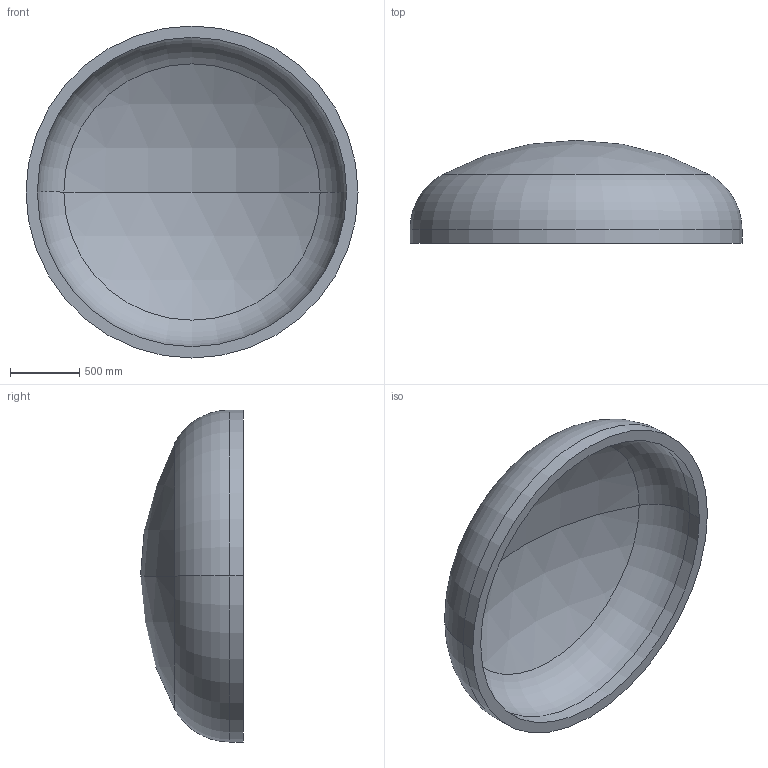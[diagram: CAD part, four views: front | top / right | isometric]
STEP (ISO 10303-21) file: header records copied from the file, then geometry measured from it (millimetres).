
FILE_DESCRIPTION (( 'STEP AP203' ), '1' );
FILE_NAME ('DIN 28013 Korbbogenform_-_Boden DIN 28013 - 2400 x 100 - I - s=82.step', '2016-07-01T15:35:56', ( '' ), ( '' ), 'SwSTEP 2.0', 'SolidWorks 2013', '' );
FILE_SCHEMA (( 'CONFIG_CONTROL_DESIGN' ));
Length unit declared in the file: millimetre
Products named in the file (1): DIN 28013 Korbbogenform_-_Boden DIN 28013 - 2400 x 100 - I - s=82
Bounding box: 2400 x 744.43 x 2400 mm (x, y, z)
Volume: 551241115.3 mm3; surface area: 14056125.2 mm2
Topology: 1 solids, 1 shells, 13 faces, 24 edges, 14 vertices
Faces by surface type: torus 4, cylinder 4, sphere 4, plane 1
Entity records: 407 total; most frequent: DIRECTION 72, CARTESIAN_POINT 52, ORIENTED_EDGE 48, AXIS2_PLACEMENT_3D 34, EDGE_CURVE 24, CIRCLE 20, VERTEX_POINT 14, EDGE_LOOP 14
